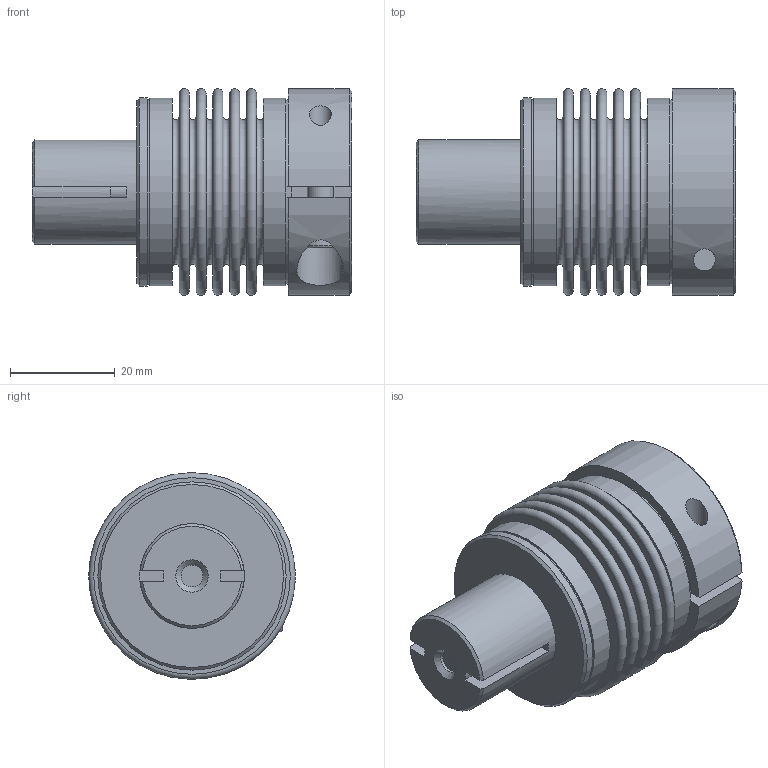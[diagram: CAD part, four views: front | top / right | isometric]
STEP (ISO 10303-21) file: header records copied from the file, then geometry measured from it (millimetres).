
FILE_DESCRIPTION(/* description */ ('Unknown'),/* implementation_level */ '2;1');
FILE_NAME(/* name */ 'KPS 8',/* time_stamp */ '2021-02-22T11:12:26+01:00',/* author */ ('Unknown'),/* organization */ ('Unknown'),/* preprocessor_version */ 'ST-DEVELOPER v16.7',/* originating_system */ 'DEX',/* authorisation */ $);
FILE_SCHEMA (('AUTOMOTIVE_DESIGN {1 0 10303 214 3 1 1}'));
Length unit declared in the file: millimetre
Products named in the file (1): KPS 8
Bounding box: 61.1 x 39.5 x 39.5 mm (x, y, z)
Volume: 31327.5 mm3; surface area: 25957.2 mm2
Topology: 1 solids, 1 shells, 135 faces, 292 edges, 190 vertices
Faces by surface type: plane 77, torus 24, cylinder 21, cone 13
Full cylindrical faces by diameter (mm): 4.2 x2, 5 x2, 5.4 x1, 5.5 x1, 8.5 x2, 9 x1, 9.5 x1, 20 x1, 35.2 x1, 35.8 x2, 36 x1
Entity records: 3407 total; most frequent: DIRECTION 616, CARTESIAN_POINT 601, ORIENTED_EDGE 460, AXIS2_PLACEMENT_3D 260, EDGE_CURVE 230, FACE_BOUND 218, EDGE_LOOP 216, VERTEX_POINT 174
